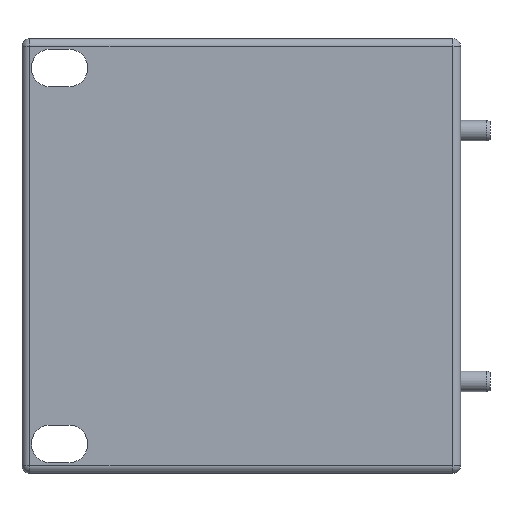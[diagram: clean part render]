
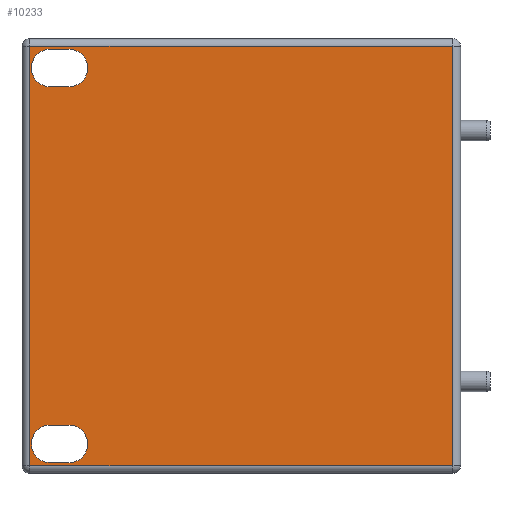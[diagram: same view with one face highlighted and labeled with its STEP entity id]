
A CAD part, top view. The second image highlights one B-rep face of the part: STEP entity #10233.
In plain terms, the highlighted planar face has unit normal (0, 0, 1).
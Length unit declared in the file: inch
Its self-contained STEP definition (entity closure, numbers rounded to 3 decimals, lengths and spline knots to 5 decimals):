
#24 = CARTESIAN_POINT ( 'NONE',  ( -3.125, 1.35, 0. ) ) ;
#155 = EDGE_CURVE ( 'NONE', #10670, #184, #10865, .T. ) ;
#184 = VERTEX_POINT ( 'NONE', #4707 ) ;
#255 = FACE_OUTER_BOUND ( 'NONE', #7050, .T. ) ;
#277 = EDGE_CURVE ( 'NONE', #5366, #5766, #8531, .T. ) ;
#495 = CARTESIAN_POINT ( 'NONE',  ( -3.275, -1.35, 0. ) ) ;
#698 = VECTOR ( 'NONE', #2578, 39.37008 ) ;
#834 = EDGE_LOOP ( 'NONE', ( #11718, #7885, #11767, #6702, #2915 ) ) ;
#935 = DIRECTION ( 'NONE',  ( -1., 0., 0. ) ) ;
#951 = DIRECTION ( 'NONE',  ( 0., 0., -1. ) ) ;
#966 = CARTESIAN_POINT ( 'NONE',  ( 0., 1.735, 0. ) ) ;
#1095 = PLANE ( 'NONE',  #3679 ) ;
#1246 = EDGE_CURVE ( 'NONE', #2891, #9011, #6956, .T. ) ;
#1317 = VECTOR ( 'NONE', #6941, 39.37008 ) ;
#1341 = EDGE_CURVE ( 'NONE', #10665, #1774, #12337, .T. ) ;
#1576 = VECTOR ( 'NONE', #6783, 39.37008 ) ;
#1724 = DIRECTION ( 'NONE',  ( -1., 0., 0. ) ) ;
#1736 = DIRECTION ( 'NONE',  ( 0., 0., 1. ) ) ;
#1744 = VERTEX_POINT ( 'NONE', #3025 ) ;
#1750 = CARTESIAN_POINT ( 'NONE',  ( -3.125, 1.5, 0. ) ) ;
#1774 = VERTEX_POINT ( 'NONE', #24 ) ;
#2060 = ORIENTED_EDGE ( 'NONE', *, *, #5909, .F. ) ;
#2433 = CARTESIAN_POINT ( 'NONE',  ( -3.275, -1.65, 0. ) ) ;
#2578 = DIRECTION ( 'NONE',  ( 1., 0., 0. ) ) ;
#2654 = CARTESIAN_POINT ( 'NONE',  ( -3.275, 1.35, 0. ) ) ;
#2672 = CARTESIAN_POINT ( 'NONE',  ( -0.0625, 1.6725, 0. ) ) ;
#2721 = VERTEX_POINT ( 'NONE', #10290 ) ;
#2726 = AXIS2_PLACEMENT_3D ( 'NONE', #12085, #12089, #12117 ) ;
#2891 = VERTEX_POINT ( 'NONE', #6680 ) ;
#2915 = ORIENTED_EDGE ( 'NONE', *, *, #10080, .F. ) ;
#3025 = CARTESIAN_POINT ( 'NONE',  ( -3.125, -1.65, 0. ) ) ;
#3388 = LINE ( 'NONE', #12500, #11743 ) ;
#3478 = CARTESIAN_POINT ( 'NONE',  ( -3.125, 1.5, 0. ) ) ;
#3679 = AXIS2_PLACEMENT_3D ( 'NONE', #966, #951, #935 ) ;
#3705 = EDGE_CURVE ( 'NONE', #6734, #9321, #5543, .T. ) ;
#3719 = VERTEX_POINT ( 'NONE', #8665 ) ;
#4140 = VECTOR ( 'NONE', #7862, 39.37008 ) ;
#4271 = DIRECTION ( 'NONE',  ( 0., 0., 1. ) ) ;
#4308 = CARTESIAN_POINT ( 'NONE',  ( 0., 1.6725, 0. ) ) ;
#4521 = VECTOR ( 'NONE', #5315, 39.37008 ) ;
#4707 = CARTESIAN_POINT ( 'NONE',  ( -3.4375, 1.6725, 0. ) ) ;
#4732 = ORIENTED_EDGE ( 'NONE', *, *, #13394, .T. ) ;
#4779 = DIRECTION ( 'NONE',  ( 0., 0., 1. ) ) ;
#4964 = CARTESIAN_POINT ( 'NONE',  ( -3.125, 1.65, 0. ) ) ;
#4995 = AXIS2_PLACEMENT_3D ( 'NONE', #1750, #1736, #1724 ) ;
#5281 = VECTOR ( 'NONE', #7140, 39.37008 ) ;
#5315 = DIRECTION ( 'NONE',  ( 1., 0., 0. ) ) ;
#5366 = VERTEX_POINT ( 'NONE', #11601 ) ;
#5543 = CIRCLE ( 'NONE', #7951, 0.15 ) ;
#5766 = VERTEX_POINT ( 'NONE', #8809 ) ;
#5909 = EDGE_CURVE ( 'NONE', #3719, #2891, #10603, .T. ) ;
#6330 = ORIENTED_EDGE ( 'NONE', *, *, #1246, .F. ) ;
#6571 = FACE_BOUND ( 'NONE', #834, .T. ) ;
#6620 = LINE ( 'NONE', #9468, #4140 ) ;
#6680 = CARTESIAN_POINT ( 'NONE',  ( -3.125, -1.35, 0. ) ) ;
#6702 = ORIENTED_EDGE ( 'NONE', *, *, #3705, .F. ) ;
#6734 = VERTEX_POINT ( 'NONE', #7348 ) ;
#6783 = DIRECTION ( 'NONE',  ( 0., 1., 0. ) ) ;
#6941 = DIRECTION ( 'NONE',  ( -1., 0., 0. ) ) ;
#6956 = LINE ( 'NONE', #495, #12815 ) ;
#6959 = CIRCLE ( 'NONE', #10430, 0.15 ) ;
#6960 = DIRECTION ( 'NONE',  ( -1., 0., 0. ) ) ;
#7050 = EDGE_LOOP ( 'NONE', ( #4732, #9173, #10861, #11355 ) ) ;
#7126 = CARTESIAN_POINT ( 'NONE',  ( -3.275, 1.65, 0. ) ) ;
#7140 = DIRECTION ( 'NONE',  ( 1., 0., 0. ) ) ;
#7179 = LINE ( 'NONE', #11768, #1576 ) ;
#7273 = CARTESIAN_POINT ( 'NONE',  ( -3.275, 1.35, 0. ) ) ;
#7283 = ORIENTED_EDGE ( 'NONE', *, *, #7474, .F. ) ;
#7348 = CARTESIAN_POINT ( 'NONE',  ( -2.975, 1.5, 0. ) ) ;
#7395 = CIRCLE ( 'NONE', #4995, 0.15 ) ;
#7474 = EDGE_CURVE ( 'NONE', #1744, #3719, #6959, .T. ) ;
#7594 = DIRECTION ( 'NONE',  ( 1., 0., 0. ) ) ;
#7862 = DIRECTION ( 'NONE',  ( 0., -1., 0. ) ) ;
#7885 = ORIENTED_EDGE ( 'NONE', *, *, #13153, .F. ) ;
#7951 = AXIS2_PLACEMENT_3D ( 'NONE', #3478, #8100, #9346 ) ;
#7969 = DIRECTION ( 'NONE',  ( -1., 0., 0. ) ) ;
#8018 = EDGE_CURVE ( 'NONE', #9011, #2721, #12368, .T. ) ;
#8100 = DIRECTION ( 'NONE',  ( 0., 0., 1. ) ) ;
#8396 = ORIENTED_EDGE ( 'NONE', *, *, #10754, .F. ) ;
#8398 = CARTESIAN_POINT ( 'NONE',  ( -3.125, -1.5, 0. ) ) ;
#8531 = LINE ( 'NONE', #8616, #4521 ) ;
#8616 = CARTESIAN_POINT ( 'NONE',  ( 0., -1.6725, 0. ) ) ;
#8665 = CARTESIAN_POINT ( 'NONE',  ( -2.975, -1.5, 0. ) ) ;
#8721 = EDGE_CURVE ( 'NONE', #5766, #10670, #7179, .T. ) ;
#8809 = CARTESIAN_POINT ( 'NONE',  ( -0.0625, -1.6725, 0. ) ) ;
#9011 = VERTEX_POINT ( 'NONE', #10493 ) ;
#9173 = ORIENTED_EDGE ( 'NONE', *, *, #277, .T. ) ;
#9293 = VERTEX_POINT ( 'NONE', #7126 ) ;
#9321 = VERTEX_POINT ( 'NONE', #4964 ) ;
#9346 = DIRECTION ( 'NONE',  ( -1., 0., 0. ) ) ;
#9468 = CARTESIAN_POINT ( 'NONE',  ( -3.4375, -1.735, 0. ) ) ;
#9600 = EDGE_CURVE ( 'NONE', #9321, #9293, #3388, .T. ) ;
#9764 = ORIENTED_EDGE ( 'NONE', *, *, #8018, .F. ) ;
#10080 = EDGE_CURVE ( 'NONE', #1774, #6734, #7395, .T. ) ;
#10111 = AXIS2_PLACEMENT_3D ( 'NONE', #12037, #4779, #6960 ) ;
#10233 = ADVANCED_FACE ( 'NONE', ( #255, #11584, #6571 ), #1095, .F. ) ;
#10290 = CARTESIAN_POINT ( 'NONE',  ( -3.275, -1.65, 0. ) ) ;
#10430 = AXIS2_PLACEMENT_3D ( 'NONE', #8398, #10594, #7594 ) ;
#10493 = CARTESIAN_POINT ( 'NONE',  ( -3.275, -1.35, 0. ) ) ;
#10594 = DIRECTION ( 'NONE',  ( 0., 0., 1. ) ) ;
#10603 = CIRCLE ( 'NONE', #11539, 0.15 ) ;
#10665 = VERTEX_POINT ( 'NONE', #2654 ) ;
#10670 = VERTEX_POINT ( 'NONE', #2672 ) ;
#10754 = EDGE_CURVE ( 'NONE', #2721, #1744, #12071, .T. ) ;
#10797 = DIRECTION ( 'NONE',  ( 1., 0., 0. ) ) ;
#10861 = ORIENTED_EDGE ( 'NONE', *, *, #8721, .T. ) ;
#10865 = LINE ( 'NONE', #4308, #1317 ) ;
#11355 = ORIENTED_EDGE ( 'NONE', *, *, #155, .T. ) ;
#11539 = AXIS2_PLACEMENT_3D ( 'NONE', #11915, #4271, #10797 ) ;
#11584 = FACE_BOUND ( 'NONE', #13386, .T. ) ;
#11601 = CARTESIAN_POINT ( 'NONE',  ( -3.4375, -1.6725, 0. ) ) ;
#11684 = CIRCLE ( 'NONE', #2726, 0.15 ) ;
#11718 = ORIENTED_EDGE ( 'NONE', *, *, #1341, .F. ) ;
#11743 = VECTOR ( 'NONE', #11792, 39.37008 ) ;
#11767 = ORIENTED_EDGE ( 'NONE', *, *, #9600, .F. ) ;
#11768 = CARTESIAN_POINT ( 'NONE',  ( -0.0625, 1.735, 0. ) ) ;
#11792 = DIRECTION ( 'NONE',  ( -1., 0., 0. ) ) ;
#11915 = CARTESIAN_POINT ( 'NONE',  ( -3.125, -1.5, 0. ) ) ;
#12037 = CARTESIAN_POINT ( 'NONE',  ( -3.275, -1.5, 0. ) ) ;
#12071 = LINE ( 'NONE', #2433, #698 ) ;
#12085 = CARTESIAN_POINT ( 'NONE',  ( -3.275, 1.5, 0. ) ) ;
#12089 = DIRECTION ( 'NONE',  ( 0., 0., 1. ) ) ;
#12117 = DIRECTION ( 'NONE',  ( 1., 0., 0. ) ) ;
#12337 = LINE ( 'NONE', #7273, #5281 ) ;
#12368 = CIRCLE ( 'NONE', #10111, 0.15 ) ;
#12500 = CARTESIAN_POINT ( 'NONE',  ( -3.275, 1.65, 0. ) ) ;
#12815 = VECTOR ( 'NONE', #7969, 39.37008 ) ;
#13153 = EDGE_CURVE ( 'NONE', #9293, #10665, #11684, .T. ) ;
#13386 = EDGE_LOOP ( 'NONE', ( #8396, #9764, #6330, #2060, #7283 ) ) ;
#13394 = EDGE_CURVE ( 'NONE', #184, #5366, #6620, .T. ) ;
